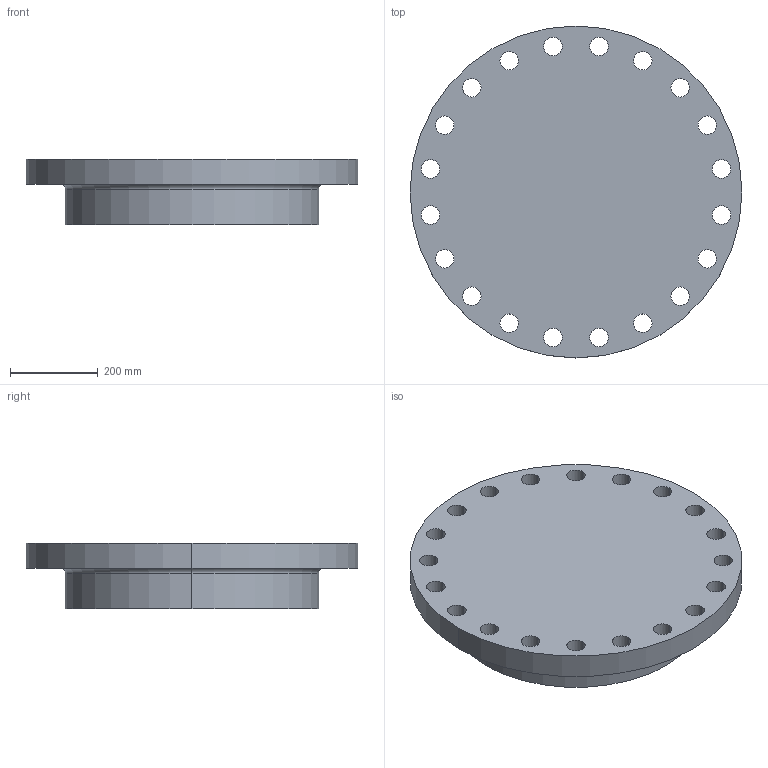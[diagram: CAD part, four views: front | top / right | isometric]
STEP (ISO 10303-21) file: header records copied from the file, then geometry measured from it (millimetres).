
FILE_DESCRIPTION (( 'STEP AP214' ), '1' );
FILE_NAME ('PN40 DN500 Type 21(i) - Type A Face.STEP', '2018-12-29T04:27:26', ( '' ), ( '' ), 'SwSTEP 2.0', 'SolidWorks 2019', '' );
FILE_SCHEMA (( 'AUTOMOTIVE_DESIGN' ));
Length unit declared in the file: millimetre
Products named in the file (1): PN40 DN500 Type 21(i) - Type A Face
Bounding box: 755 x 755 x 150 mm (x, y, z)
Volume: 48229334.1 mm3; surface area: 1284626.2 mm2
Topology: 1 solids, 1 shells, 49 faces, 136 edges, 90 vertices
Faces by surface type: cylinder 44, plane 3, torus 2
Entity records: 1740 total; most frequent: DIRECTION 328, CARTESIAN_POINT 276, ORIENTED_EDGE 272, AXIS2_PLACEMENT_3D 142, EDGE_CURVE 136, CIRCLE 92, VERTEX_POINT 90, EDGE_LOOP 90
